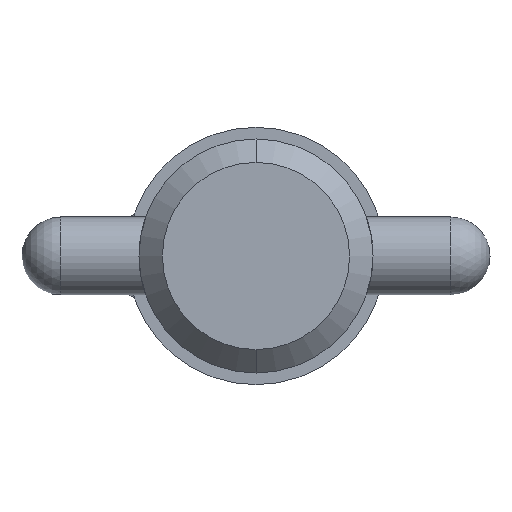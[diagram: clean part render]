
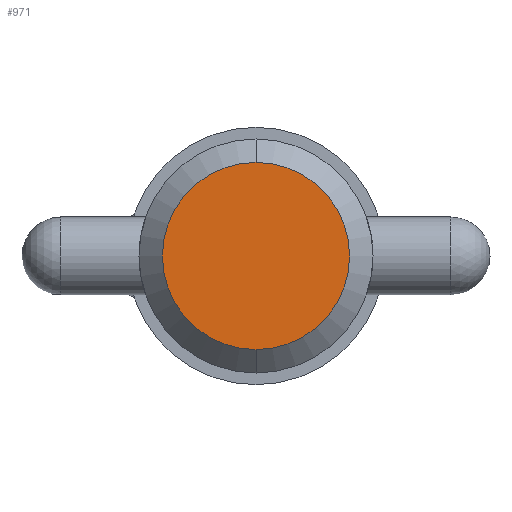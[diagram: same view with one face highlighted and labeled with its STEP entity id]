
A CAD part, left-side view. The second image highlights one B-rep face of the part: STEP entity #971.
In plain terms, the highlighted planar face has unit normal (-1, 0, 0).
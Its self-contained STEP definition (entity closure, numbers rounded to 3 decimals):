
#53 = PLANE ( 'NONE',  #141 ) ;
#89 = EDGE_CURVE ( 'NONE', #965, #555, #454, .T. ) ;
#138 = ORIENTED_EDGE ( 'NONE', *, *, #89, .F. ) ;
#141 = AXIS2_PLACEMENT_3D ( 'NONE', #375, #548, #888 ) ;
#185 = DIRECTION ( 'NONE',  ( 1., 0., 0. ) ) ;
#197 = EDGE_CURVE ( 'NONE', #555, #965, #264, .T. ) ;
#223 = DIRECTION ( 'NONE',  ( 1., 0., 0. ) ) ;
#264 = CIRCLE ( 'NONE', #851, 7.62 ) ;
#307 = CARTESIAN_POINT ( 'NONE',  ( 0., 0., 0. ) ) ;
#375 = CARTESIAN_POINT ( 'NONE',  ( 0., 0., 0. ) ) ;
#379 = CARTESIAN_POINT ( 'NONE',  ( 0., 0., -7.62 ) ) ;
#386 = EDGE_LOOP ( 'NONE', ( #138, #1050 ) ) ;
#422 = CARTESIAN_POINT ( 'NONE',  ( 0., 0., 0. ) ) ;
#454 = CIRCLE ( 'NONE', #632, 7.62 ) ;
#548 = DIRECTION ( 'NONE',  ( -1., 0., 0. ) ) ;
#552 = DIRECTION ( 'NONE',  ( 0., 0., -1. ) ) ;
#554 = FACE_OUTER_BOUND ( 'NONE', #386, .T. ) ;
#555 = VERTEX_POINT ( 'NONE', #955 ) ;
#592 = DIRECTION ( 'NONE',  ( 0., 0., -1. ) ) ;
#632 = AXIS2_PLACEMENT_3D ( 'NONE', #307, #223, #552 ) ;
#851 = AXIS2_PLACEMENT_3D ( 'NONE', #422, #185, #592 ) ;
#888 = DIRECTION ( 'NONE',  ( 0., 0., 1. ) ) ;
#955 = CARTESIAN_POINT ( 'NONE',  ( 0., 0., 7.62 ) ) ;
#965 = VERTEX_POINT ( 'NONE', #379 ) ;
#971 = ADVANCED_FACE ( 'NONE', ( #554 ), #53, .T. ) ;
#1050 = ORIENTED_EDGE ( 'NONE', *, *, #197, .F. ) ;
